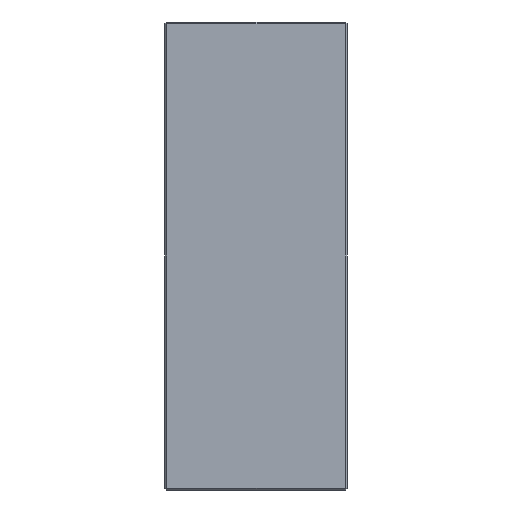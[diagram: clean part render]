
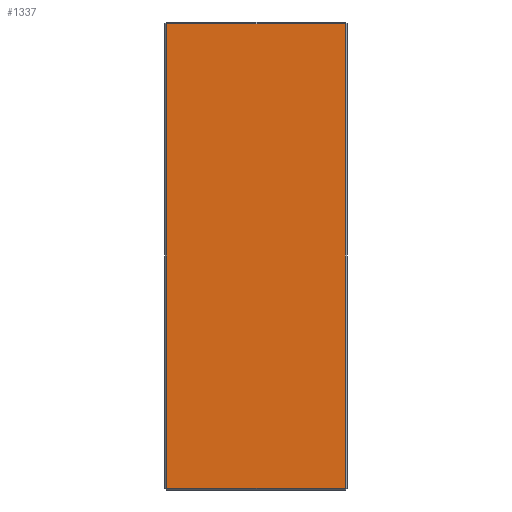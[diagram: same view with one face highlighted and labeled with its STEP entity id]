
A CAD part, left-side view. The second image highlights one B-rep face of the part: STEP entity #1337.
In plain terms, the highlighted planar face has unit normal (-1, 0, 0).
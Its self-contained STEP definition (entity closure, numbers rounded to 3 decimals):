
#18 = VERTEX_POINT ( 'NONE', #1274 ) ;
#97 = EDGE_CURVE ( 'NONE', #318, #2125, #2451, .T. ) ;
#188 = LINE ( 'NONE', #998, #249 ) ;
#249 = VECTOR ( 'NONE', #2360, 1000. ) ;
#285 = ORIENTED_EDGE ( 'NONE', *, *, #2413, .T. ) ;
#318 = VERTEX_POINT ( 'NONE', #967 ) ;
#426 = VECTOR ( 'NONE', #880, 1000. ) ;
#427 = EDGE_CURVE ( 'NONE', #1538, #318, #450, .T. ) ;
#450 = LINE ( 'NONE', #549, #426 ) ;
#484 = DIRECTION ( 'NONE',  ( 0., 0., -1. ) ) ;
#534 = ORIENTED_EDGE ( 'NONE', *, *, #427, .T. ) ;
#549 = CARTESIAN_POINT ( 'NONE',  ( -123., 96., 122. ) ) ;
#654 = ORIENTED_EDGE ( 'NONE', *, *, #2551, .T. ) ;
#728 = VECTOR ( 'NONE', #1916, 1000. ) ;
#804 = ORIENTED_EDGE ( 'NONE', *, *, #97, .T. ) ;
#841 = EDGE_LOOP ( 'NONE', ( #534, #804, #654, #285 ) ) ;
#880 = DIRECTION ( 'NONE',  ( 0., 1., 0. ) ) ;
#967 = CARTESIAN_POINT ( 'NONE',  ( -123., 95., 122. ) ) ;
#998 = CARTESIAN_POINT ( 'NONE',  ( -123., 96., -122. ) ) ;
#1274 = CARTESIAN_POINT ( 'NONE',  ( -123., 1., -122. ) ) ;
#1337 = ADVANCED_FACE ( 'NONE', ( #2167 ), #1726, .F. ) ;
#1505 = LINE ( 'NONE', #2082, #728 ) ;
#1538 = VERTEX_POINT ( 'NONE', #1963 ) ;
#1650 = DIRECTION ( 'NONE',  ( 0., 0., -1. ) ) ;
#1720 = DIRECTION ( 'NONE',  ( 1., 0., 0. ) ) ;
#1726 = PLANE ( 'NONE',  #2287 ) ;
#1818 = CARTESIAN_POINT ( 'NONE',  ( -123., 96., 123. ) ) ;
#1820 = CARTESIAN_POINT ( 'NONE',  ( -123., 95., -122. ) ) ;
#1916 = DIRECTION ( 'NONE',  ( 0., 0., 1. ) ) ;
#1963 = CARTESIAN_POINT ( 'NONE',  ( -123., 1., 122. ) ) ;
#2082 = CARTESIAN_POINT ( 'NONE',  ( -123., 1., 123. ) ) ;
#2125 = VERTEX_POINT ( 'NONE', #1820 ) ;
#2167 = FACE_OUTER_BOUND ( 'NONE', #841, .T. ) ;
#2287 = AXIS2_PLACEMENT_3D ( 'NONE', #1818, #1720, #1650 ) ;
#2360 = DIRECTION ( 'NONE',  ( 0., -1., 0. ) ) ;
#2392 = CARTESIAN_POINT ( 'NONE',  ( -123., 95., 123. ) ) ;
#2413 = EDGE_CURVE ( 'NONE', #18, #1538, #1505, .T. ) ;
#2450 = VECTOR ( 'NONE', #484, 1000. ) ;
#2451 = LINE ( 'NONE', #2392, #2450 ) ;
#2551 = EDGE_CURVE ( 'NONE', #2125, #18, #188, .T. ) ;
